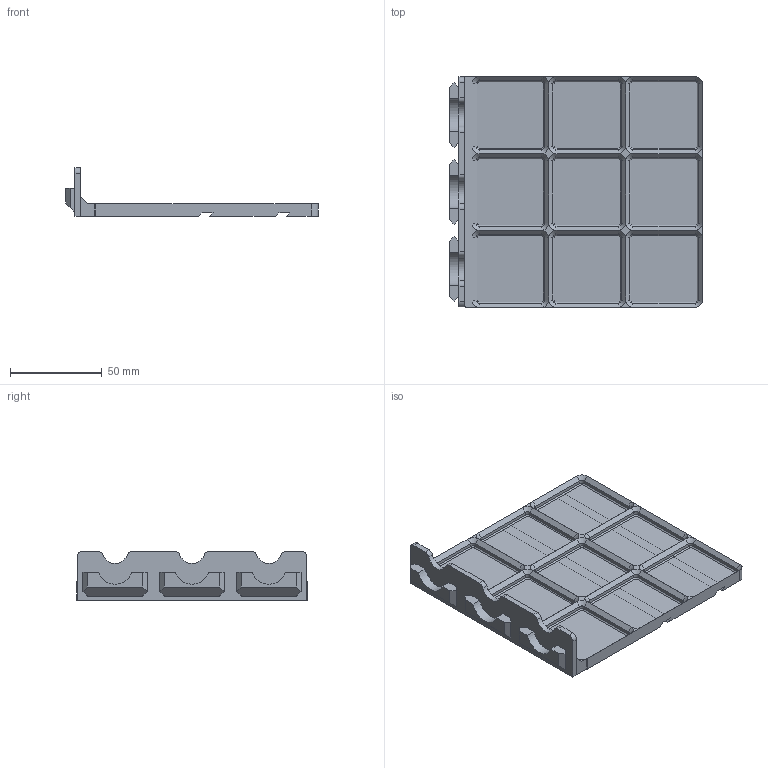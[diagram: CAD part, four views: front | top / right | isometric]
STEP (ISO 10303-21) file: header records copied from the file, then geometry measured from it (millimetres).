
FILE_DESCRIPTION(/* description */ ('','CAx-IF Rec.Pracs.---Representation and Presentation of Product Manufacturing Information (PMI)---4.0---2014-10-13'),/* implementation_level */ '2;1');
FILE_NAME(/* name */ 'Goews 3x Hanger Gridfinity 3x3 Base.step',/* time_stamp */ '2024-11-29T16:30:57-05:00',/* author */ (''),/* organization */ (''),/* preprocessor_version */ 'ST-DEVELOPER v20',/* originating_system */ 'Autodesk Translation Framework v13.20.0.188',/* authorisation */ '');
FILE_SCHEMA (('AP242_MANAGED_MODEL_BASED_3D_ENGINEERING_MIM_LF { 1 0 10303 442 1 1 4 }'));
Length unit declared in the file: millimetre
Products named in the file (1): Goews Triple Hanger Gridfinity 2x3 Base
Bounding box: 138.15 x 126 x 26.72 mm (x, y, z)
Volume: 63870.6 mm3; surface area: 48187 mm2
Topology: 1 solids, 1 shells, 348 faces, 775 edges, 432 vertices
Faces by surface type: plane 190, cylinder 86, cone 72
Entity records: 9330 total; most frequent: DIRECTION 1683, CARTESIAN_POINT 1556, ORIENTED_EDGE 1550, EDGE_CURVE 775, LINE 565, VECTOR 565, AXIS2_PLACEMENT_3D 559, VERTEX_POINT 432
